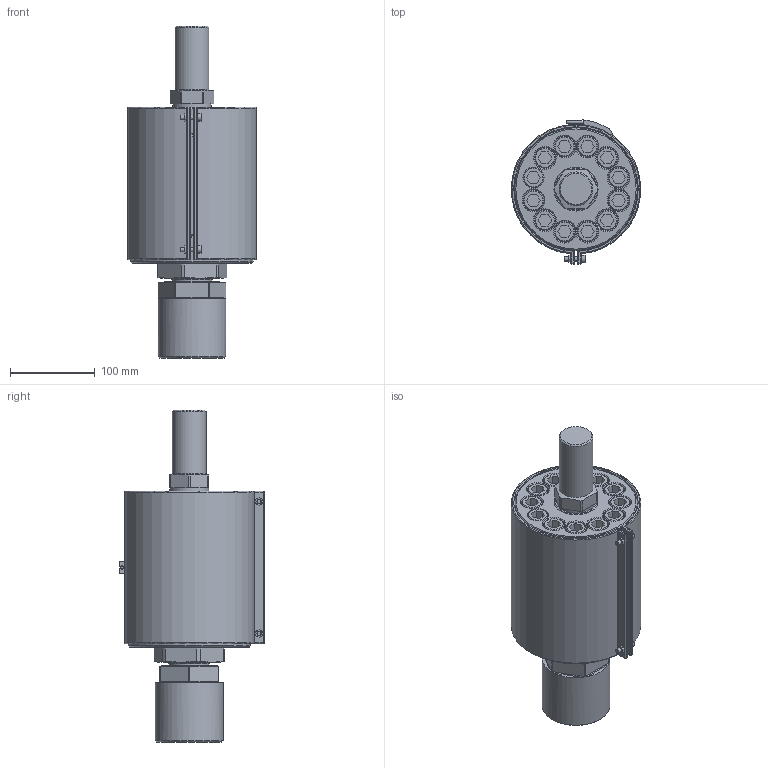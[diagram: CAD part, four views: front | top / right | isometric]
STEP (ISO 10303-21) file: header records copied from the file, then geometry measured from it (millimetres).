
FILE_DESCRIPTION(('STEP AP214'),'1');
FILE_NAME('FF4000SL.stp','2018-06-15T10:29:10',(' '),(' '),'Spatial InterOp 3D',' ',' ');
FILE_SCHEMA(('AUTOMOTIVE_DESIGN { 1 0 10303 214 1 1 1 1 }'));
Length unit declared in the file: millimetre
Products named in the file (1): 1
Bounding box: 152.44 x 170.49 x 392 mm (x, y, z)
Volume: 3941168.7 mm3; surface area: 699430.6 mm2
Topology: 35 solids, 35 shells, 861 faces, 2013 edges, 1284 vertices
Faces by surface type: plane 407, cone 214, cylinder 196, bspline 20, revolution 16, torus 8
Full cylindrical faces by diameter (mm): 4 x1, 4.2 x2, 5 x2, 5.5 x4, 8.5 x2, 14 x24, 16 x24, 17 x24, 24 x24, 25 x25, 35 x2, 40 x1, 43 x1, 46 x1, 48 x1, 48.8 x2, 51.8 x1, 52 x1, 53 x1, 70 x2, 80 x3, 84 x4, 145 x3
Entity records: 42839 total; most frequent: CARTESIAN_POINT 18538, DIRECTION 3622, ORIENTED_EDGE 2918, AXIS2_PLACEMENT_3D 1467, EDGE_CURVE 1459, EDGE_LOOP 1370, VERTEX_POINT 1135, FACE_OUTER_BOUND 1024
